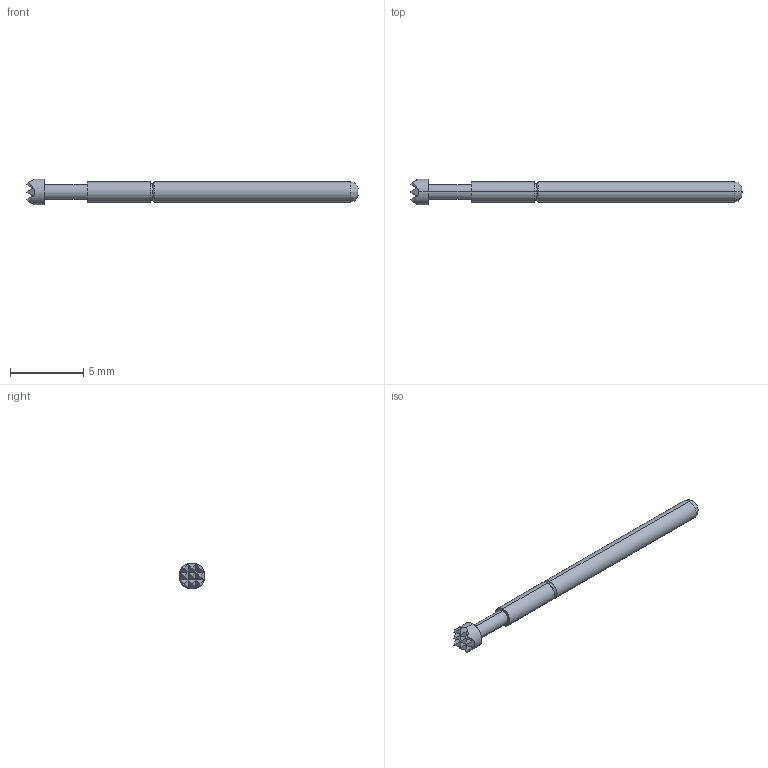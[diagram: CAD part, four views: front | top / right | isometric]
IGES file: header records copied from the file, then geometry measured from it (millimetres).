
Start section: SolidWorks IGES file using analytic representation for surfaces
Global section: file name: O:\PYLON\IGES FILES\P2664\P2664G-1W1S.IGS; native system: SolidWorks 2015; preprocessor: SolidWorks 2015; author: kgolden; date: 171019.120133; units: inch
Bounding box: 22.73 x 1.78 x 1.78 mm (x, y, z)
Surface area: 105.8 mm2 (no closed solid volume)
Topology: 0 solids, 0 shells, 47 faces, 302 edges, 302 vertices
Faces by surface type: bspline 37, revolution 10
